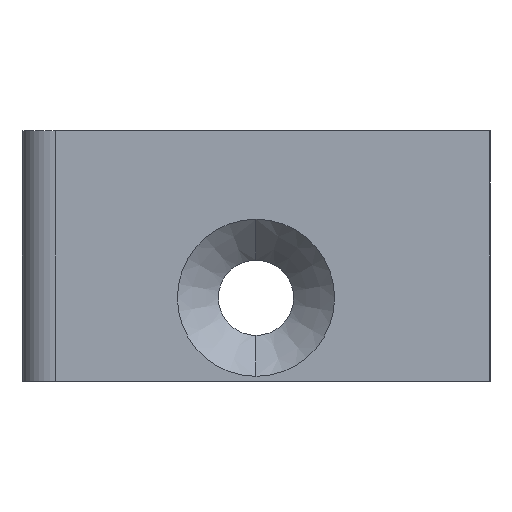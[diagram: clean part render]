
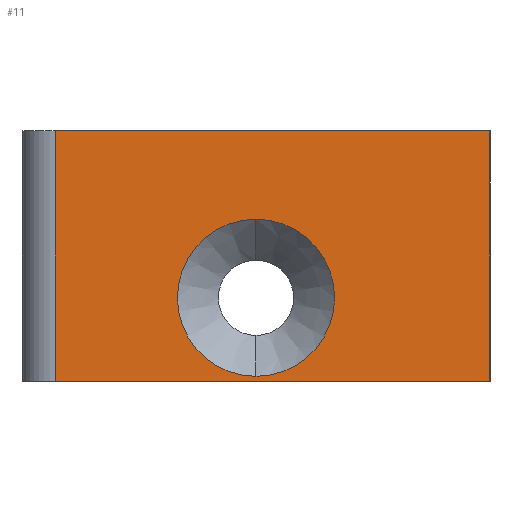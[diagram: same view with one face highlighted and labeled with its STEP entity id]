
A CAD part, left-side view. The second image highlights one B-rep face of the part: STEP entity #11.
In plain terms, the highlighted planar face has unit normal (-1, 0, 0).
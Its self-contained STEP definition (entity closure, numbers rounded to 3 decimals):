
#11 = ADVANCED_FACE ( 'NONE', ( #397, #166 ), #226, .F. ) ;
#21 = VECTOR ( 'NONE', #625, 1000. ) ;
#34 = DIRECTION ( 'NONE',  ( -1., 0., 0. ) ) ;
#41 = EDGE_CURVE ( 'NONE', #692, #760, #682, .T. ) ;
#43 = CARTESIAN_POINT ( 'NONE',  ( -90.897, 22.958, 5. ) ) ;
#58 = CARTESIAN_POINT ( 'NONE',  ( -90.897, 22.958, 5. ) ) ;
#60 = LINE ( 'NONE', #412, #260 ) ;
#97 = DIRECTION ( 'NONE',  ( -1., 0., 0. ) ) ;
#114 = CIRCLE ( 'NONE', #736, 4.7 ) ;
#127 = DIRECTION ( 'NONE',  ( 0., 0., -1. ) ) ;
#150 = ORIENTED_EDGE ( 'NONE', *, *, #236, .F. ) ;
#151 = CARTESIAN_POINT ( 'NONE',  ( -90.897, 10.958, -5. ) ) ;
#152 = EDGE_CURVE ( 'NONE', #611, #692, #296, .T. ) ;
#166 = FACE_BOUND ( 'NONE', #522, .T. ) ;
#170 = VERTEX_POINT ( 'NONE', #311 ) ;
#194 = CARTESIAN_POINT ( 'NONE',  ( -90.897, 22.958, -10. ) ) ;
#215 = AXIS2_PLACEMENT_3D ( 'NONE', #43, #460, #583 ) ;
#225 = DIRECTION ( 'NONE',  ( 0., 0., 1. ) ) ;
#226 = PLANE ( 'NONE',  #215 ) ;
#234 = ORIENTED_EDGE ( 'NONE', *, *, #41, .T. ) ;
#236 = EDGE_CURVE ( 'NONE', #403, #760, #560, .T. ) ;
#257 = CARTESIAN_POINT ( 'NONE',  ( -90.897, -3.042, -10. ) ) ;
#260 = VECTOR ( 'NONE', #362, 1000. ) ;
#268 = EDGE_CURVE ( 'NONE', #170, #537, #114, .T. ) ;
#278 = ORIENTED_EDGE ( 'NONE', *, *, #534, .F. ) ;
#296 = LINE ( 'NONE', #58, #759 ) ;
#311 = CARTESIAN_POINT ( 'NONE',  ( -90.897, 10.958, -0.3 ) ) ;
#330 = DIRECTION ( 'NONE',  ( 0., 0., 1. ) ) ;
#362 = DIRECTION ( 'NONE',  ( 0., -1., 0. ) ) ;
#382 = CARTESIAN_POINT ( 'NONE',  ( -90.897, 10.958, -5. ) ) ;
#397 = FACE_OUTER_BOUND ( 'NONE', #767, .T. ) ;
#399 = ORIENTED_EDGE ( 'NONE', *, *, #268, .F. ) ;
#403 = VERTEX_POINT ( 'NONE', #568 ) ;
#412 = CARTESIAN_POINT ( 'NONE',  ( -90.897, 22.958, 5. ) ) ;
#434 = EDGE_CURVE ( 'NONE', #537, #170, #585, .T. ) ;
#460 = DIRECTION ( 'NONE',  ( 1., 0., 0. ) ) ;
#461 = AXIS2_PLACEMENT_3D ( 'NONE', #151, #97, #225 ) ;
#473 = ORIENTED_EDGE ( 'NONE', *, *, #434, .F. ) ;
#522 = EDGE_LOOP ( 'NONE', ( #399, #473 ) ) ;
#534 = EDGE_CURVE ( 'NONE', #611, #403, #60, .T. ) ;
#537 = VERTEX_POINT ( 'NONE', #720 ) ;
#560 = LINE ( 'NONE', #732, #21 ) ;
#568 = CARTESIAN_POINT ( 'NONE',  ( -90.897, -3.042, 5. ) ) ;
#583 = DIRECTION ( 'NONE',  ( 0., 0., -1. ) ) ;
#585 = CIRCLE ( 'NONE', #461, 4.7 ) ;
#598 = VECTOR ( 'NONE', #697, 1000. ) ;
#611 = VERTEX_POINT ( 'NONE', #765 ) ;
#625 = DIRECTION ( 'NONE',  ( 0., 0., -1. ) ) ;
#626 = CARTESIAN_POINT ( 'NONE',  ( -90.897, 22.958, -10. ) ) ;
#672 = ORIENTED_EDGE ( 'NONE', *, *, #152, .T. ) ;
#682 = LINE ( 'NONE', #626, #598 ) ;
#692 = VERTEX_POINT ( 'NONE', #194 ) ;
#697 = DIRECTION ( 'NONE',  ( 0., -1., 0. ) ) ;
#720 = CARTESIAN_POINT ( 'NONE',  ( -90.897, 10.958, -9.7 ) ) ;
#732 = CARTESIAN_POINT ( 'NONE',  ( -90.897, -3.042, 5. ) ) ;
#736 = AXIS2_PLACEMENT_3D ( 'NONE', #382, #34, #330 ) ;
#759 = VECTOR ( 'NONE', #127, 1000. ) ;
#760 = VERTEX_POINT ( 'NONE', #257 ) ;
#765 = CARTESIAN_POINT ( 'NONE',  ( -90.897, 22.958, 5. ) ) ;
#767 = EDGE_LOOP ( 'NONE', ( #672, #234, #150, #278 ) ) ;
